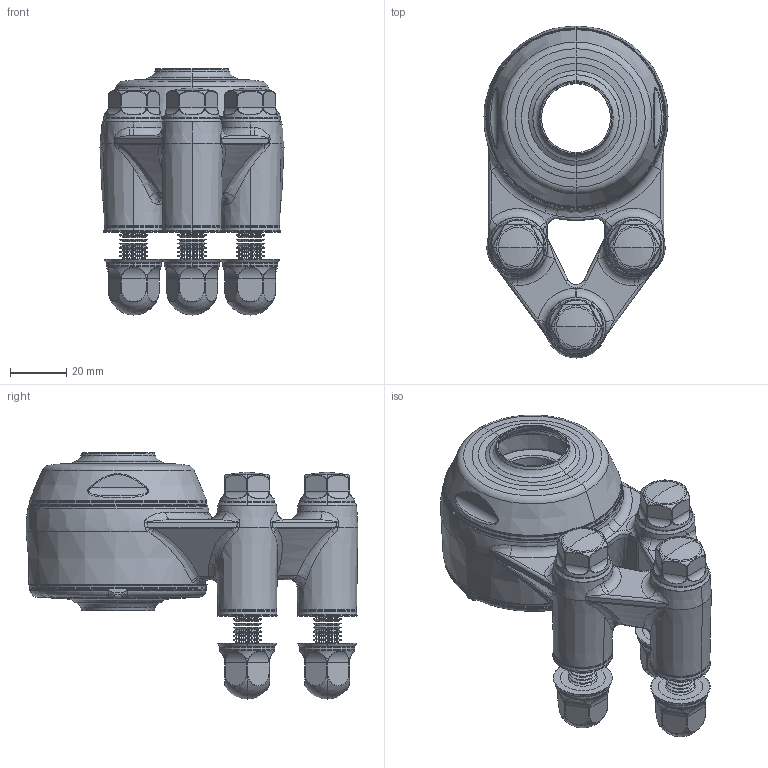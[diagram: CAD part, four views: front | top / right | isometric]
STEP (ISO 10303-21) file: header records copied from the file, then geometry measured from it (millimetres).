
FILE_DESCRIPTION (( 'STEP AP203' ), '1' );
FILE_NAME ('XB3FC52(White)-CSB2500(Front)-OM(Blue)-OS(White)-BXHM1055-NDXHM10_Shell.step', '2020-09-24T12:48:06', ( '' ), ( '' ), 'SwSTEP 2.0', 'SolidWorks 2019', '' );
FILE_SCHEMA (( 'CONFIG_CONTROL_DESIGN' ));
Length unit declared in the file: millimetre
Products named in the file (1): XB3FC52(White)-CSB2500(Front)-OM(Blue)-OS(White)-BXHM1055-NDXHM10_Shell
Bounding box: 65.6 x 118.34 x 87.74 mm (x, y, z)
Surface area: 48431.7 mm2 (no closed solid volume)
Topology: 0 solids, 63 shells, 1147 faces, 3489 edges, 2315 vertices
Faces by surface type: bspline 293, torus 286, cylinder 258, cone 178, plane 90, sphere 42
Entity records: 59607 total; most frequent: CARTESIAN_POINT 31434, ORIENTED_EDGE 5808, DIRECTION 5488, EDGE_CURVE 3484, AXIS2_PLACEMENT_3D 2484, VERTEX_POINT 2315, CIRCLE 1629, B_SPLINE_CURVE_WITH_KNOTS 1312
